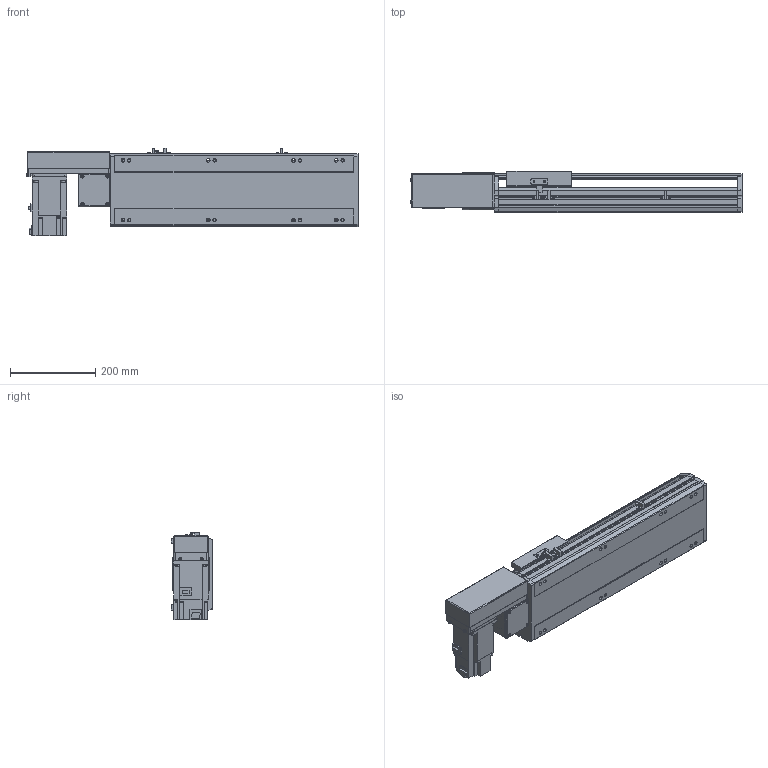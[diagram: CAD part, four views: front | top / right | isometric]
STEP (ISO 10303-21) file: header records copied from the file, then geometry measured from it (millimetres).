
FILE_DESCRIPTION(/* description */ ('STEP AP214'),/* implementation_level */ '2;1');
FILE_NAME(/* name */ 'PBS170-P40-S300-R-T75-C1-N(0)',/* time_stamp */ '2022-06-07T09:28:59+02:00',/* author */ ('License CC BY-ND 4.0'),/* organization */ ('CADENAS'),/* preprocessor_version */ 'ST-DEVELOPER v18.102',/* originating_system */ 'PARTsolutions',/* authorisation */ ' ');
FILE_SCHEMA (('AUTOMOTIVE_DESIGN {1 0 10303 214 3 1 1}'));
Length unit declared in the file: millimetre
Products named in the file (7): PBS170-P40-S300-R-T75-C1-N(0); PBS170_sensor; PBS170_plant; PBS170_sliser; T75-p1; PBS170T-R_motors; PBS170-S300()_body
Assembly tree (8 placements, depth 2):
  PBS170-P40-S300-R-T75-C1-N(0)
    PBS170_sensor  x3
    PBS170_plant
    PBS170_sliser
    T75-p1
    PBS170T-R_motors
    PBS170-S300()_body
Bounding box: 778 x 97 x 205.3 mm (x, y, z)
Volume: 6001633.3 mm3; surface area: 838828 mm2
Topology: 8 solids, 8 shells, 1018 faces, 2715 edges, 1770 vertices
Faces by surface type: plane 663, cylinder 307, cone 38, sphere 8, torus 2
Full cylindrical faces by diameter (mm): 3.242 x4, 4 x2, 4.4 x4, 4.5 x6, 4.917 x4, 6 x9, 6.647 x16, 7 x2, 7.5 x4, 8 x8, 8.5 x8, 10 x4, 10.5 x8, 11 x2, 30 x2, 40 x1, 70 x1
Entity records: 29286 total; most frequent: CARTESIAN_POINT 5265, DIRECTION 5020, ORIENTED_EDGE 4788, EDGE_CURVE 2394, AXIS2_PLACEMENT_3D 1717, VERTEX_POINT 1634, LINE 1586, VECTOR 1586
